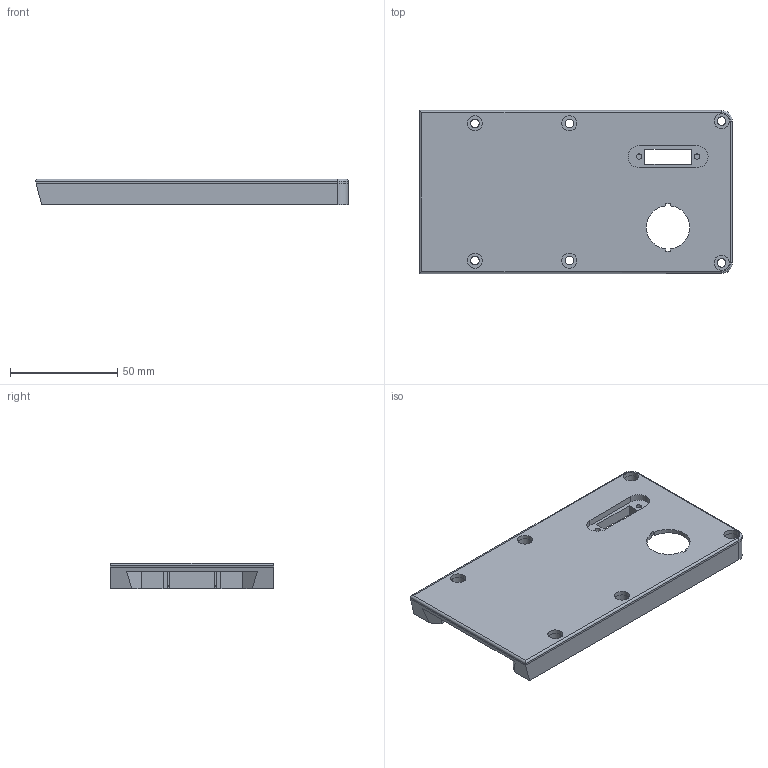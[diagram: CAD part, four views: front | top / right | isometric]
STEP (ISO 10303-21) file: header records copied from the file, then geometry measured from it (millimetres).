
FILE_DESCRIPTION(('FreeCAD Model'),'2;1');
FILE_NAME('Open CASCADE Shape Model','2026-01-28T11:33:50',(''),(''), 'Open CASCADE STEP processor 7.8','FreeCAD','Unknown');
FILE_SCHEMA(('AUTOMOTIVE_DESIGN { 1 0 10303 214 1 1 1 1 }'));
Length unit declared in the file: millimetre
Products named in the file (4): Top Cover Part; Mid Plate Body; Top Plate Body; Contact Block Body
Assembly tree (3 placements, depth 2):
  Top Cover Part
    Mid Plate Body
    Top Plate Body
    Contact Block Body
Bounding box: 145.8 x 76 x 12 mm (x, y, z)
Volume: 77326 mm3; surface area: 50834.8 mm2
Topology: 3 solids, 3 shells, 157 faces, 401 edges, 266 vertices
Faces by surface type: plane 106, cylinder 49, torus 2
Full cylindrical faces by diameter (mm): 2.5 x4, 4 x6, 5 x2, 7 x12
Entity records: 10321 total; most frequent: CARTESIAN_POINT 2012, DIRECTION 1566, LINE 999, VECTOR 999, ORIENTED_EDGE 802, PCURVE 802, DEFINITIONAL_REPRESENTATION 802, EDGE_CURVE 401
